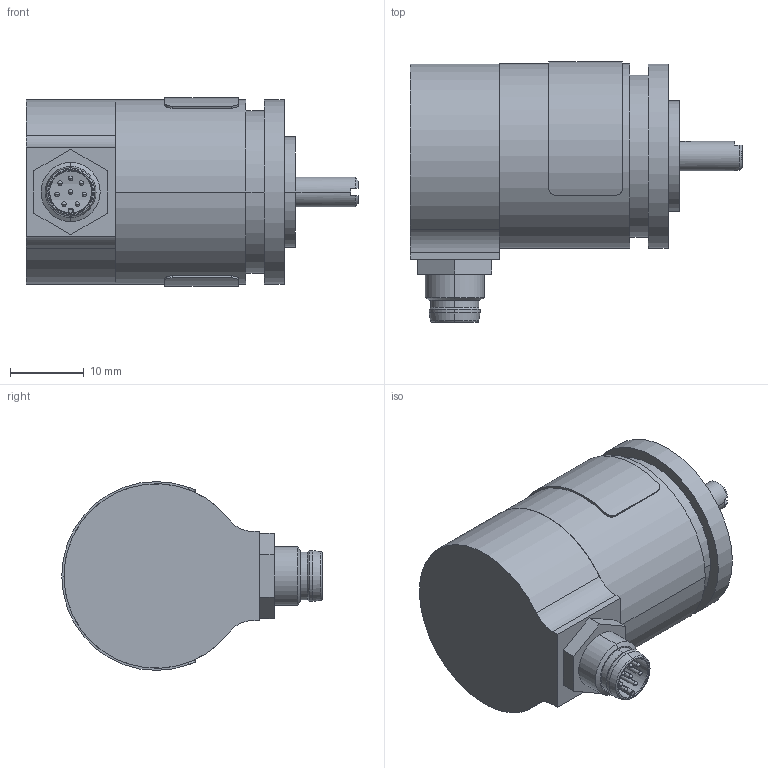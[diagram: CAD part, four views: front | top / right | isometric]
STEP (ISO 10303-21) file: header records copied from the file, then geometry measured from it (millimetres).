
FILE_DESCRIPTION (( 'STEP AP203' ), '1' );
FILE_NAME ('HTx25 4x10 M8 R.STEP', '2022-05-31T13:10:19', ( '' ), ( '' ), 'SwSTEP 2.0', 'SolidWorks 2019', '' );
FILE_SCHEMA (( 'CONFIG_CONTROL_DESIGN' ));
Length unit declared in the file: millimetre
Products named in the file (1): HTx25 4x10 M8 R
Bounding box: 45 x 35.3 x 25.6 mm (x, y, z)
Surface area: 5923.6 mm2 (no closed solid volume)
Topology: 0 solids, 18 shells, 168 faces, 432 edges, 274 vertices
Faces by surface type: cylinder 74, plane 43, cone 28, bspline 23
Entity records: 5580 total; most frequent: CARTESIAN_POINT 1490, DIRECTION 913, ORIENTED_EDGE 742, EDGE_CURVE 416, AXIS2_PLACEMENT_3D 373, VERTEX_POINT 274, CIRCLE 227, EDGE_LOOP 191
